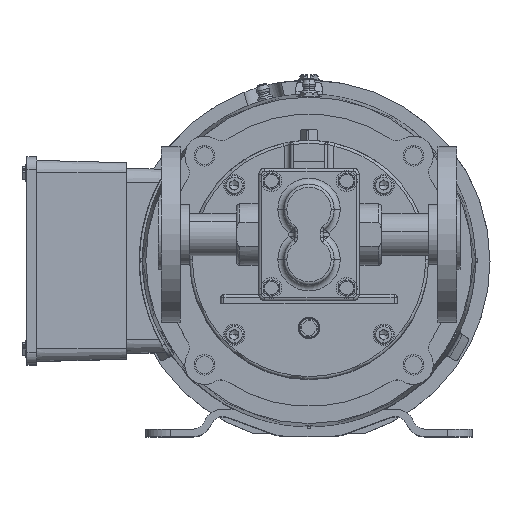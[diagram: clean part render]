
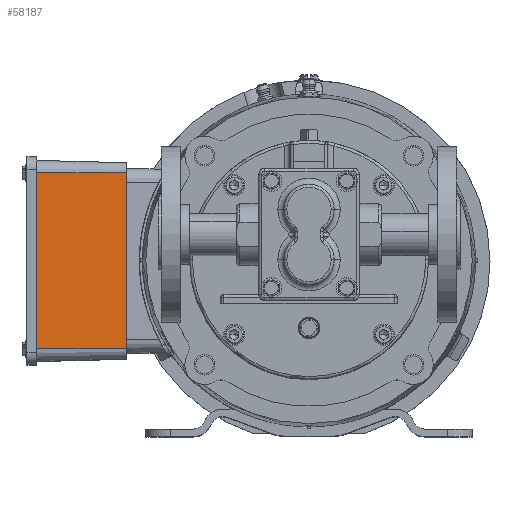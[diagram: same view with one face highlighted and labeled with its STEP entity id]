
A CAD part, top view. The second image highlights one B-rep face of the part: STEP entity #58187.
In plain terms, the highlighted planar face has unit normal (0.026, 0, 1).
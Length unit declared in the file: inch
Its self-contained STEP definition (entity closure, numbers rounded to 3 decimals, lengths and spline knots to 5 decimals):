
#81 = CARTESIAN_POINT ( 'NONE',  ( -12.33154, 1.52086, -11.4761 ) ) ;
#368 = LINE ( 'NONE', #31248, #58557 ) ;
#1117 = VERTEX_POINT ( 'NONE', #72907 ) ;
#1691 = LINE ( 'NONE', #79508, #78325 ) ;
#2012 = CARTESIAN_POINT ( 'NONE',  ( -12.23654, 1.52086, -11.47859 ) ) ;
#9217 = LINE ( 'NONE', #2012, #73906 ) ;
#9794 = VERTEX_POINT ( 'NONE', #42138 ) ;
#15027 = VERTEX_POINT ( 'NONE', #76324 ) ;
#15113 = CARTESIAN_POINT ( 'NONE',  ( -10.45154, 1.52086, -11.52533 ) ) ;
#19241 = ORIENTED_EDGE ( 'NONE', *, *, #56936, .T. ) ;
#19524 = FACE_OUTER_BOUND ( 'NONE', #76963, .T. ) ;
#22388 = DIRECTION ( 'NONE',  ( 0., 1., 0. ) ) ;
#23270 = ORIENTED_EDGE ( 'NONE', *, *, #65427, .F. ) ;
#23518 = DIRECTION ( 'NONE',  ( -1., 0., 0.026 ) ) ;
#25876 = DIRECTION ( 'NONE',  ( 0.026, 0., 1. ) ) ;
#28657 = ORIENTED_EDGE ( 'NONE', *, *, #36838, .T. ) ;
#31248 = CARTESIAN_POINT ( 'NONE',  ( -12.33154, -1.97914, -11.4761 ) ) ;
#32201 = PLANE ( 'NONE',  #33739 ) ;
#33739 = AXIS2_PLACEMENT_3D ( 'NONE', #81, #25876, #45296 ) ;
#33909 = VERTEX_POINT ( 'NONE', #15113 ) ;
#36838 = EDGE_CURVE ( 'NONE', #1117, #9794, #9217, .T. ) ;
#37043 = CARTESIAN_POINT ( 'NONE',  ( -12.33154, 1.52086, -11.4761 ) ) ;
#39580 = EDGE_CURVE ( 'NONE', #33909, #1117, #68776, .T. ) ;
#42138 = CARTESIAN_POINT ( 'NONE',  ( -12.23654, -1.97914, -11.47859 ) ) ;
#44343 = DIRECTION ( 'NONE',  ( -1., 0., 0.026 ) ) ;
#45296 = DIRECTION ( 'NONE',  ( 1., 0., -0.026 ) ) ;
#49995 = VECTOR ( 'NONE', #23518, 39.37008 ) ;
#56936 = EDGE_CURVE ( 'NONE', #15027, #33909, #1691, .T. ) ;
#58187 = ADVANCED_FACE ( 'NONE', ( #19524 ), #32201, .T. ) ;
#58557 = VECTOR ( 'NONE', #44343, 39.37008 ) ;
#65427 = EDGE_CURVE ( 'NONE', #15027, #9794, #368, .T. ) ;
#68399 = ORIENTED_EDGE ( 'NONE', *, *, #39580, .T. ) ;
#68776 = LINE ( 'NONE', #37043, #49995 ) ;
#72201 = DIRECTION ( 'NONE',  ( 0., -1., 0. ) ) ;
#72907 = CARTESIAN_POINT ( 'NONE',  ( -12.23654, 1.52086, -11.47859 ) ) ;
#73906 = VECTOR ( 'NONE', #72201, 39.37008 ) ;
#76324 = CARTESIAN_POINT ( 'NONE',  ( -10.45154, -1.97914, -11.52533 ) ) ;
#76963 = EDGE_LOOP ( 'NONE', ( #68399, #28657, #23270, #19241 ) ) ;
#78325 = VECTOR ( 'NONE', #22388, 39.37008 ) ;
#79508 = CARTESIAN_POINT ( 'NONE',  ( -10.45154, 1.52086, -11.52533 ) ) ;
